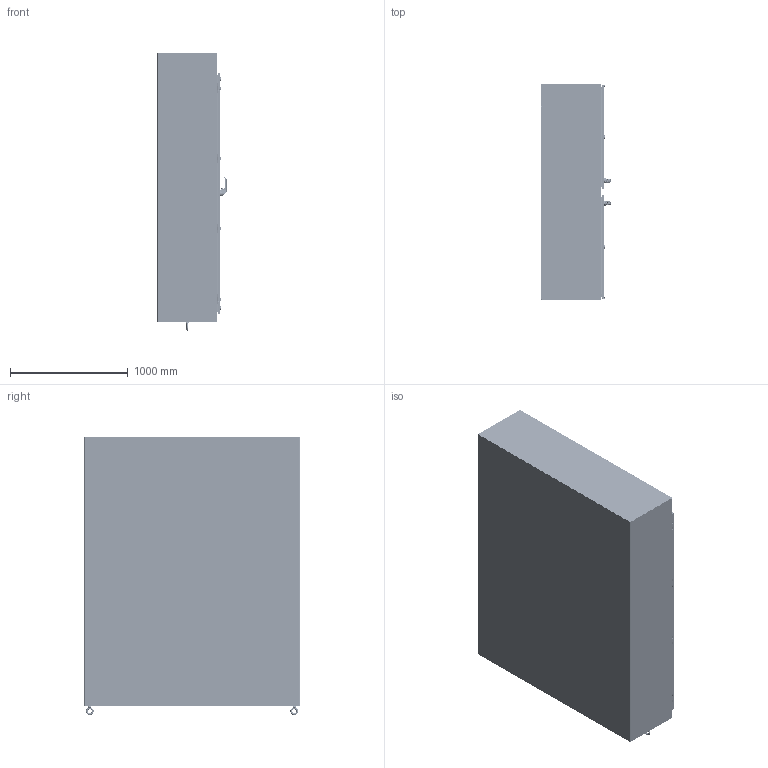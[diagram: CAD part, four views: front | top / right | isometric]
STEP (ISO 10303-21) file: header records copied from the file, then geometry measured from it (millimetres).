
FILE_DESCRIPTION((''),'2;1');
FILE_NAME('MODEL-233_ASM','2024-06-07T13:06:05',('richards'),('SAGINAW CONTROL & ENGINEERING'),'CREO PARAMETRIC BY PTC INC, 2021284','CREO PARAMETRIC BY PTC INC, 2021284','');
FILE_SCHEMA(('AUTOMOTIVE_DESIGN { 1 0 10303 214 1 1 1 1 }'));
Length unit declared in the file: inch
Products named in the file (87): MODEL-233-L-SD; MODEL-233-TP; MODEL-233-BTM; MODEL-233-R-SD; MODEL-233-BCK; MODEL-233-RH-DR; 100837; 111267; 100882; 100955_SCREW_MTG; 100955_PADLOCK_CATCH; 100955_SCREW_LARGE; 100955_INSERT_SHAFT; 100955_INSERT_PKH; 100955_GASKET; 100955_O-RING; 100955_BASE; 100955_SPRING; 100955_HANDLE; 100955_CAM_SHAFT; 100955_HANDLE_ASM; 100955_CAM_ADAPTER; 100955_EARTH_NUT; 100955_FLANGE_NUT; 100955_CAM_NUT; 100955_KEY_INSERT; 100955_SPRING_CAM; 100955_TORSION_SPRING; 100955_SCREW_INSERT; 100955_ASM; 102236; 100030; 102236_ASM; MODEL-233-ROD-UPR-RH; 128146; 128145; 128144; 102482; MODEL-233-ROD-UPR-RH_ASM; 128143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
Assembly tree (211 placements, depth 5):
  MODEL-233_ASM
    MODEL-233-L-SD
    MODEL-233-TP
    MODEL-233-BTM
    MODEL-233-R-SD
    MODEL-233-BCK
    MODEL-233-RH-DOOR-ASSY_ASM
      MODEL-233-RH-DR
      100837  x5
      111267
      100882  x12
      100955_ASM
        100955_SCREW_MTG
        100955_PADLOCK_CATCH
        100955_SCREW_LARGE  x2
        100955_INSERT_SHAFT
        100955_INSERT_PKH
        100955_GASKET
        100955_O-RING
        100955_BASE
        100955_SPRING
        100955_HANDLE_ASM
          100955_HANDLE
          100955_CAM_SHAFT
        100955_CAM_ADAPTER
        100955_EARTH_NUT
        100955_FLANGE_NUT
        100955_CAM_NUT
        100955_KEY_INSERT
        100955_SPRING_CAM
        100955_TORSION_SPRING
        100955_SCREW_INSERT
      102236_ASM
        102236
        100030  x2
      MODEL-233-ROD-UPR-RH_ASM
        MODEL-233-ROD-UPR-RH
        128146
        128145
        128144
        102482  x2
      128143  x2
      112504  x2
      MODEL-233-ROD-LWR-RH_ASM
        MODEL-233-ROD-LWR-RH
        128146
        128145
        128144
        102482  x2
      MODEL-233-RH-PR-GS
      113885_ASM  x2
        113885_SHAFT
        113885_INSERT
        113885_CAM_30MM
        113885_NUT
        113885_SCREW
      128258_ASM  x4
        128258
      126395  x4
      102483  x4
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Bounding box: 586.25 x 1828.8 x 2360.8 mm (x, y, z)
Volume: 39861891 mm3; surface area: 29629609.5 mm2
Topology: 270 solids, 270 shells, 25480 faces, 65494 edges, 40512 vertices
Faces by surface type: plane 9415, cylinder 6553, bspline 5688, torus 1698, cone 1414, sphere 596, extrusion 116
Entity records: 435308 total; most frequent: CARTESIAN_POINT 170563, ORIENTED_EDGE 40312, DIRECTION 36677, PRESENTATION_STYLE_ASSIGNMENT 20736, STYLED_ITEM 20456, EDGE_CURVE 20156, CURVE_STYLE 19946, AXIS2_PLACEMENT_3D 13363
